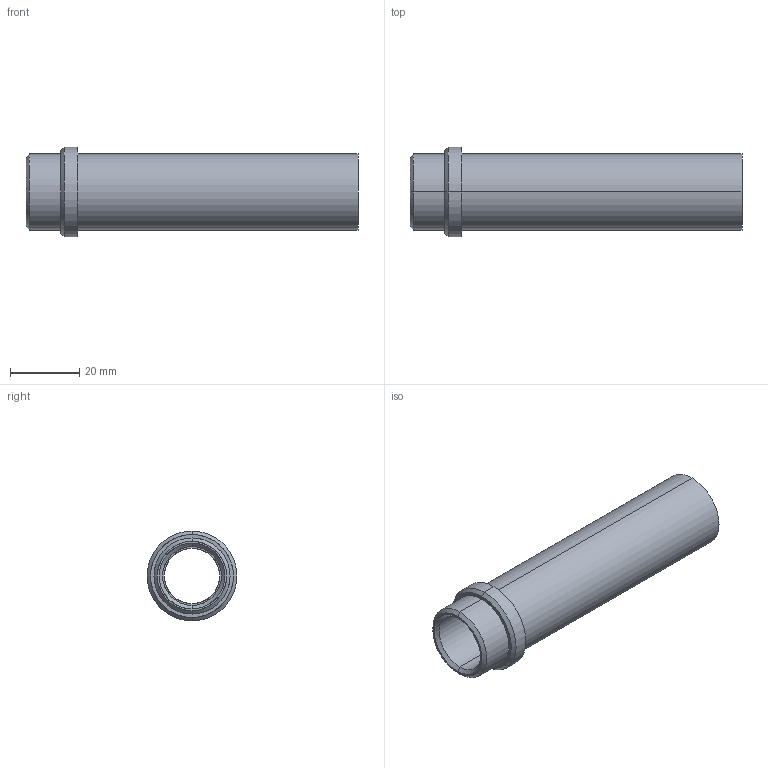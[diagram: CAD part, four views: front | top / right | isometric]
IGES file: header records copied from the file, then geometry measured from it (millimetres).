
Start section: START RECORD GO HERE.
Global section: file name: 358-16x96.igs; native system: DASSAULT SYSTEMES CATIA V5 R20 - www.3ds.com; preprocessor: CATIA Version 5 Release 20 ; author: Utente; organization: NB04-ASUS; date: 20210408.151411; units: millimetre
Bounding box: 96 x 26 x 26 mm (x, y, z)
Surface area: 12221.9 mm2 (no closed solid volume)
Topology: 0 solids, 0 shells, 23 faces, 148 edges, 148 vertices
Faces by surface type: revolution 18, plane 5
